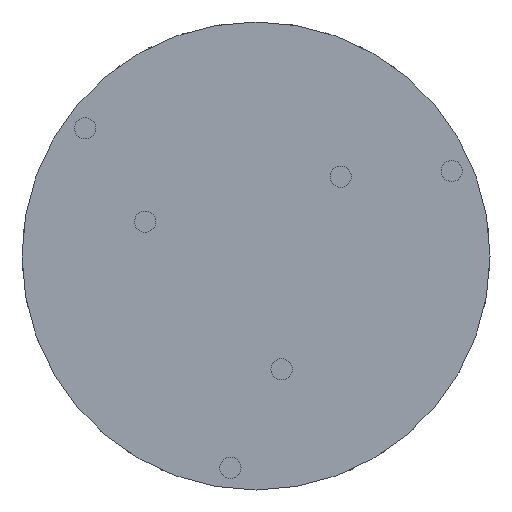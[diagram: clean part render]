
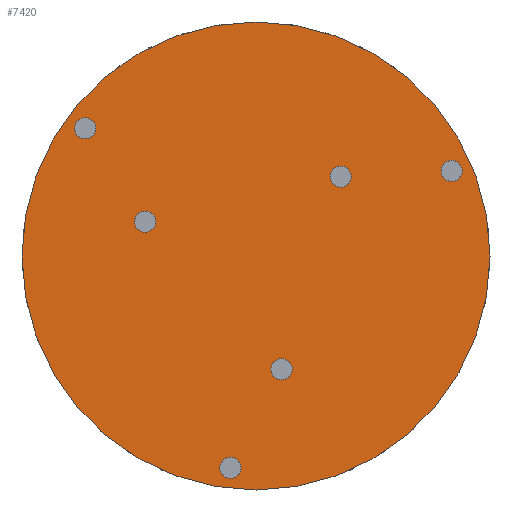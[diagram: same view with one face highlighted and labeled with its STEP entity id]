
A CAD part, front view. The second image highlights one B-rep face of the part: STEP entity #7420.
In plain terms, the highlighted planar face has unit normal (0, -1, 0).
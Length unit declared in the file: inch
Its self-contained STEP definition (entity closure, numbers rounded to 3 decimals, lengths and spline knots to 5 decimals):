
#146 = DIRECTION ( 'NONE',  ( 0., 0., 1. ) ) ;
#288 = CIRCLE ( 'NONE', #21105, 0.05709 ) ;
#399 = DIRECTION ( 'NONE',  ( 0., 0., 1. ) ) ;
#800 = CARTESIAN_POINT ( 'NONE',  ( 0.1378, -0.27165, -0.61023 ) ) ;
#854 = CARTESIAN_POINT ( 'NONE',  ( 0., -0.27165, -1.261 ) ) ;
#1202 = DIRECTION ( 'NONE',  ( 0., 1., 0. ) ) ;
#1331 = CIRCLE ( 'NONE', #10356, 0.05709 ) ;
#1363 = DIRECTION ( 'NONE',  ( 0., 1., 0. ) ) ;
#1637 = CARTESIAN_POINT ( 'NONE',  ( 0.45668, -0.27165, 0.48465 ) ) ;
#1998 = ORIENTED_EDGE ( 'NONE', *, *, #15218, .T. ) ;
#2036 = CIRCLE ( 'NONE', #2808, 1.261 ) ;
#2083 = VERTEX_POINT ( 'NONE', #8259 ) ;
#2463 = ORIENTED_EDGE ( 'NONE', *, *, #19340, .T. ) ;
#2466 = ORIENTED_EDGE ( 'NONE', *, *, #13384, .T. ) ;
#2480 = FACE_BOUND ( 'NONE', #23054, .T. ) ;
#2585 = AXIS2_PLACEMENT_3D ( 'NONE', #11367, #1202, #399 ) ;
#2808 = AXIS2_PLACEMENT_3D ( 'NONE', #10686, #19383, #10311 ) ;
#2847 = CIRCLE ( 'NONE', #23688, 0.05709 ) ;
#3050 = VERTEX_POINT ( 'NONE', #24397 ) ;
#3125 = EDGE_LOOP ( 'NONE', ( #24625, #7341 ) ) ;
#3304 = ORIENTED_EDGE ( 'NONE', *, *, #6486, .T. ) ;
#3542 = DIRECTION ( 'NONE',  ( 0., 1., 0. ) ) ;
#3616 = AXIS2_PLACEMENT_3D ( 'NONE', #800, #20456, #17976 ) ;
#3664 = AXIS2_PLACEMENT_3D ( 'NONE', #4836, #8887, #6039 ) ;
#4033 = EDGE_LOOP ( 'NONE', ( #8528, #3304 ) ) ;
#4068 = ORIENTED_EDGE ( 'NONE', *, *, #7424, .T. ) ;
#4134 = CARTESIAN_POINT ( 'NONE',  ( -0.1378, -0.27165, -1.1988 ) ) ;
#4298 = AXIS2_PLACEMENT_3D ( 'NONE', #15723, #12434, #23560 ) ;
#4778 = ORIENTED_EDGE ( 'NONE', *, *, #16788, .T. ) ;
#4827 = CIRCLE ( 'NONE', #9788, 1.261 ) ;
#4836 = CARTESIAN_POINT ( 'NONE',  ( 0.1378, -0.27165, -0.61023 ) ) ;
#4981 = DIRECTION ( 'NONE',  ( 0., 1., 0. ) ) ;
#5148 = CARTESIAN_POINT ( 'NONE',  ( 0.1378, -0.27165, -0.66731 ) ) ;
#6039 = DIRECTION ( 'NONE',  ( 0., 0., 1. ) ) ;
#6069 = ORIENTED_EDGE ( 'NONE', *, *, #23555, .T. ) ;
#6258 = CIRCLE ( 'NONE', #3616, 0.05709 ) ;
#6486 = EDGE_CURVE ( 'NONE', #16821, #14600, #10056, .T. ) ;
#6530 = CARTESIAN_POINT ( 'NONE',  ( 0., -0.27165, 0. ) ) ;
#6558 = ORIENTED_EDGE ( 'NONE', *, *, #19405, .T. ) ;
#6808 = EDGE_CURVE ( 'NONE', #10078, #18539, #1331, .T. ) ;
#6854 = ORIENTED_EDGE ( 'NONE', *, *, #16673, .T. ) ;
#7082 = DIRECTION ( 'NONE',  ( 0., 1., 0. ) ) ;
#7341 = ORIENTED_EDGE ( 'NONE', *, *, #6808, .T. ) ;
#7413 = ORIENTED_EDGE ( 'NONE', *, *, #21860, .T. ) ;
#7420 = ADVANCED_FACE ( 'NONE', ( #25011, #12644, #18842, #2480, #22939, #22529, #11021 ), #17605, .T. ) ;
#7424 = EDGE_CURVE ( 'NONE', #13498, #9475, #11241, .T. ) ;
#7464 = AXIS2_PLACEMENT_3D ( 'NONE', #12907, #3542, #22774 ) ;
#7487 = CARTESIAN_POINT ( 'NONE',  ( -0.1378, -0.27165, -1.08463 ) ) ;
#7539 = DIRECTION ( 'NONE',  ( 0., 1., 0. ) ) ;
#7559 = EDGE_CURVE ( 'NONE', #19880, #10353, #7863, .T. ) ;
#7824 = CARTESIAN_POINT ( 'NONE',  ( -0.1378, -0.27165, -1.14171 ) ) ;
#7863 = CIRCLE ( 'NONE', #3664, 0.05709 ) ;
#7870 = CARTESIAN_POINT ( 'NONE',  ( -0.1378, -0.27165, -1.14171 ) ) ;
#8259 = CARTESIAN_POINT ( 'NONE',  ( -0.92106, -0.27165, 0.6315 ) ) ;
#8344 = CARTESIAN_POINT ( 'NONE',  ( 0., -0.27165, 1.261 ) ) ;
#8447 = DIRECTION ( 'NONE',  ( 0., -1., 0. ) ) ;
#8466 = CIRCLE ( 'NONE', #4298, 0.05709 ) ;
#8528 = ORIENTED_EDGE ( 'NONE', *, *, #8791, .T. ) ;
#8583 = AXIS2_PLACEMENT_3D ( 'NONE', #6530, #10589, #20899 ) ;
#8791 = EDGE_CURVE ( 'NONE', #14600, #16821, #288, .T. ) ;
#8887 = DIRECTION ( 'NONE',  ( 0., 1., 0. ) ) ;
#8983 = EDGE_LOOP ( 'NONE', ( #6558, #6854 ) ) ;
#8990 = DIRECTION ( 'NONE',  ( 0., 0., 1. ) ) ;
#9410 = VERTEX_POINT ( 'NONE', #18007 ) ;
#9475 = VERTEX_POINT ( 'NONE', #11376 ) ;
#9788 = AXIS2_PLACEMENT_3D ( 'NONE', #16265, #8447, #14629 ) ;
#10056 = CIRCLE ( 'NONE', #2585, 0.05709 ) ;
#10078 = VERTEX_POINT ( 'NONE', #4134 ) ;
#10311 = DIRECTION ( 'NONE',  ( 0., 0., -1. ) ) ;
#10353 = VERTEX_POINT ( 'NONE', #21885 ) ;
#10356 = AXIS2_PLACEMENT_3D ( 'NONE', #7824, #4981, #11900 ) ;
#10589 = DIRECTION ( 'NONE',  ( 0., -1., 0. ) ) ;
#10633 = EDGE_LOOP ( 'NONE', ( #4778, #2463 ) ) ;
#10654 = EDGE_LOOP ( 'NONE', ( #4068, #1998 ) ) ;
#10686 = CARTESIAN_POINT ( 'NONE',  ( 0., -0.27165, 0. ) ) ;
#10714 = CARTESIAN_POINT ( 'NONE',  ( 1.05475, -0.27165, 0.45827 ) ) ;
#10736 = CIRCLE ( 'NONE', #24795, 0.05709 ) ;
#10803 = AXIS2_PLACEMENT_3D ( 'NONE', #13086, #24615, #8990 ) ;
#11021 = FACE_OUTER_BOUND ( 'NONE', #8983, .T. ) ;
#11241 = CIRCLE ( 'NONE', #10803, 0.05709 ) ;
#11367 = CARTESIAN_POINT ( 'NONE',  ( 0.45668, -0.27165, 0.42756 ) ) ;
#11376 = CARTESIAN_POINT ( 'NONE',  ( 1.05475, -0.27165, 0.40118 ) ) ;
#11900 = DIRECTION ( 'NONE',  ( 0., 0., 1. ) ) ;
#12009 = VERTEX_POINT ( 'NONE', #24346 ) ;
#12434 = DIRECTION ( 'NONE',  ( 0., 1., 0. ) ) ;
#12644 = FACE_BOUND ( 'NONE', #4033, .T. ) ;
#12789 = DIRECTION ( 'NONE',  ( 0., 0., 1. ) ) ;
#12836 = CARTESIAN_POINT ( 'NONE',  ( -0.92106, -0.27165, 0.68858 ) ) ;
#12907 = CARTESIAN_POINT ( 'NONE',  ( -0.92106, -0.27165, 0.68858 ) ) ;
#13086 = CARTESIAN_POINT ( 'NONE',  ( 1.05475, -0.27165, 0.45827 ) ) ;
#13384 = EDGE_CURVE ( 'NONE', #10353, #19880, #6258, .T. ) ;
#13498 = VERTEX_POINT ( 'NONE', #20835 ) ;
#14220 = DIRECTION ( 'NONE',  ( 0., 0., 1. ) ) ;
#14528 = AXIS2_PLACEMENT_3D ( 'NONE', #7870, #1363, #146 ) ;
#14600 = VERTEX_POINT ( 'NONE', #1637 ) ;
#14629 = DIRECTION ( 'NONE',  ( 0., 0., -1. ) ) ;
#14981 = EDGE_CURVE ( 'NONE', #18539, #10078, #19120, .T. ) ;
#15218 = EDGE_CURVE ( 'NONE', #9475, #13498, #10736, .T. ) ;
#15325 = VERTEX_POINT ( 'NONE', #8344 ) ;
#15723 = CARTESIAN_POINT ( 'NONE',  ( -0.59772, -0.27165, 0.18465 ) ) ;
#15937 = AXIS2_PLACEMENT_3D ( 'NONE', #12836, #7539, #21906 ) ;
#16265 = CARTESIAN_POINT ( 'NONE',  ( 0., -0.27165, 0. ) ) ;
#16673 = EDGE_CURVE ( 'NONE', #24076, #15325, #2036, .T. ) ;
#16788 = EDGE_CURVE ( 'NONE', #12009, #2083, #23974, .T. ) ;
#16821 = VERTEX_POINT ( 'NONE', #20298 ) ;
#17121 = DIRECTION ( 'NONE',  ( 0., 1., 0. ) ) ;
#17605 = PLANE ( 'NONE',  #8583 ) ;
#17976 = DIRECTION ( 'NONE',  ( 0., 0., 1. ) ) ;
#18007 = CARTESIAN_POINT ( 'NONE',  ( -0.59772, -0.27165, 0.12756 ) ) ;
#18142 = DIRECTION ( 'NONE',  ( 0., 1., 0. ) ) ;
#18539 = VERTEX_POINT ( 'NONE', #7487 ) ;
#18842 = FACE_BOUND ( 'NONE', #10633, .T. ) ;
#19120 = CIRCLE ( 'NONE', #14528, 0.05709 ) ;
#19340 = EDGE_CURVE ( 'NONE', #2083, #12009, #24616, .T. ) ;
#19383 = DIRECTION ( 'NONE',  ( 0., -1., 0. ) ) ;
#19405 = EDGE_CURVE ( 'NONE', #15325, #24076, #4827, .T. ) ;
#19880 = VERTEX_POINT ( 'NONE', #5148 ) ;
#20298 = CARTESIAN_POINT ( 'NONE',  ( 0.45668, -0.27165, 0.37047 ) ) ;
#20456 = DIRECTION ( 'NONE',  ( 0., 1., 0. ) ) ;
#20835 = CARTESIAN_POINT ( 'NONE',  ( 1.05475, -0.27165, 0.51535 ) ) ;
#20899 = DIRECTION ( 'NONE',  ( 0., 0., -1. ) ) ;
#21105 = AXIS2_PLACEMENT_3D ( 'NONE', #22050, #17121, #14220 ) ;
#21522 = EDGE_LOOP ( 'NONE', ( #2466, #23288 ) ) ;
#21531 = DIRECTION ( 'NONE',  ( 0., 0., 1. ) ) ;
#21860 = EDGE_CURVE ( 'NONE', #9410, #3050, #2847, .T. ) ;
#21885 = CARTESIAN_POINT ( 'NONE',  ( 0.1378, -0.27165, -0.55314 ) ) ;
#21906 = DIRECTION ( 'NONE',  ( 0., 0., 1. ) ) ;
#21920 = CARTESIAN_POINT ( 'NONE',  ( -0.59772, -0.27165, 0.18465 ) ) ;
#22050 = CARTESIAN_POINT ( 'NONE',  ( 0.45668, -0.27165, 0.42756 ) ) ;
#22529 = FACE_BOUND ( 'NONE', #21522, .T. ) ;
#22774 = DIRECTION ( 'NONE',  ( 0., 0., 1. ) ) ;
#22939 = FACE_BOUND ( 'NONE', #3125, .T. ) ;
#23054 = EDGE_LOOP ( 'NONE', ( #6069, #7413 ) ) ;
#23288 = ORIENTED_EDGE ( 'NONE', *, *, #7559, .T. ) ;
#23555 = EDGE_CURVE ( 'NONE', #3050, #9410, #8466, .T. ) ;
#23560 = DIRECTION ( 'NONE',  ( 0., 0., 1. ) ) ;
#23688 = AXIS2_PLACEMENT_3D ( 'NONE', #21920, #7082, #21531 ) ;
#23974 = CIRCLE ( 'NONE', #15937, 0.05709 ) ;
#24076 = VERTEX_POINT ( 'NONE', #854 ) ;
#24346 = CARTESIAN_POINT ( 'NONE',  ( -0.92106, -0.27165, 0.74567 ) ) ;
#24397 = CARTESIAN_POINT ( 'NONE',  ( -0.59772, -0.27165, 0.24173 ) ) ;
#24615 = DIRECTION ( 'NONE',  ( 0., 1., 0. ) ) ;
#24616 = CIRCLE ( 'NONE', #7464, 0.05709 ) ;
#24625 = ORIENTED_EDGE ( 'NONE', *, *, #14981, .T. ) ;
#24795 = AXIS2_PLACEMENT_3D ( 'NONE', #10714, #18142, #12789 ) ;
#25011 = FACE_BOUND ( 'NONE', #10654, .T. ) ;
